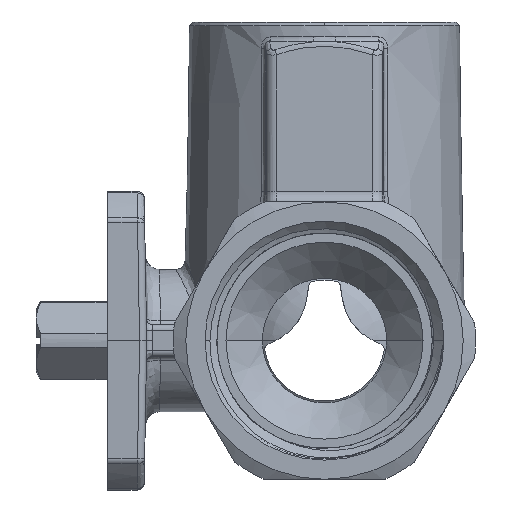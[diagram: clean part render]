
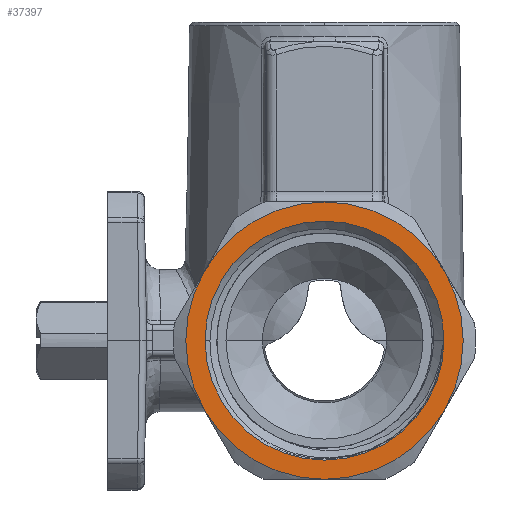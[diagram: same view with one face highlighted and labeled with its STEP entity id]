
A CAD part, left-side view. The second image highlights one B-rep face of the part: STEP entity #37397.
In plain terms, the highlighted planar face has unit normal (-1, 0, 0).
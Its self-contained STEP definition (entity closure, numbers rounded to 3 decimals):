
#8435=CARTESIAN_POINT('',(-42.7,0.,0.));
#8436=DIRECTION('',(1.,0.,0.));
#8437=DIRECTION('',(0.,1.,0.));
#8438=AXIS2_PLACEMENT_3D('',#8435,#8436,#8437);
#8440=CARTESIAN_POINT('',(-42.7,0.,0.));
#8441=DIRECTION('',(-1.,0.,0.));
#8442=DIRECTION('',(0.,1.,0.));
#8443=AXIS2_PLACEMENT_3D('',#8440,#8441,#8442);
#8445=CARTESIAN_POINT('',(-42.7,0.,0.));
#8446=DIRECTION('',(-1.,0.,0.));
#8447=DIRECTION('',(0.,0.866,0.5));
#8448=AXIS2_PLACEMENT_3D('',#8445,#8446,#8447);
#8477=CARTESIAN_POINT('',(-42.7,16.887,
-9.75));
#8507=CARTESIAN_POINT('',(-42.7,0.,0.));
#8508=DIRECTION('',(-1.,0.,0.));
#8509=DIRECTION('',(0.,0.866,-0.5));
#8510=AXIS2_PLACEMENT_3D('',#8507,#8508,#8509);
#8520=CARTESIAN_POINT('',(-42.7,0.,
-19.5));
#9622=CARTESIAN_POINT('',(-42.7,0.,0.));
#9623=DIRECTION('',(-1.,0.,0.));
#9624=DIRECTION('',(0.,0.,-1.));
#9625=AXIS2_PLACEMENT_3D('',#9622,#9623,#9624);
#9635=CARTESIAN_POINT('',(-42.7,-16.887,
-9.75));
#9658=CARTESIAN_POINT('',(-42.7,0.,0.));
#9659=DIRECTION('',(-1.,0.,0.));
#9660=DIRECTION('',(0.,-0.866,-0.5));
#9661=AXIS2_PLACEMENT_3D('',#9658,#9659,#9660);
#9686=CARTESIAN_POINT('',(-42.7,-16.887,
9.75));
#9716=CARTESIAN_POINT('',(-42.7,0.,0.));
#9717=DIRECTION('',(1.,0.,0.));
#9718=DIRECTION('',(0.,0.,1.));
#9719=AXIS2_PLACEMENT_3D('',#9716,#9717,#9718);
#9729=CARTESIAN_POINT('',(-42.7,0.,
19.5));
#9821=CARTESIAN_POINT('',(-42.7,0.,0.));
#9822=DIRECTION('',(1.,0.,0.));
#9823=DIRECTION('',(0.,0.866,0.5));
#9824=AXIS2_PLACEMENT_3D('',#9821,#9822,#9823);
#9834=CARTESIAN_POINT('',(-42.7,16.887,9.75));
#24099=CARTESIAN_POINT('',(-42.7,16.8,0.));
#24100=CARTESIAN_POINT('',(-42.7,-16.8,0.));
#24101=VERTEX_POINT('',#24099);
#24102=VERTEX_POINT('',#24100);
#24104=VERTEX_POINT('',#9834);
#24111=VERTEX_POINT('',#9729);
#24118=VERTEX_POINT('',#9686);
#24121=VERTEX_POINT('',#9635);
#24128=VERTEX_POINT('',#8520);
#24135=VERTEX_POINT('',#8477);
#37374=CARTESIAN_POINT('',(-42.7,0.,0.));
#37375=DIRECTION('',(1.,0.,0.));
#37376=DIRECTION('',(0.,-1.,0.));
#37377=AXIS2_PLACEMENT_3D('',#37374,#37375,#37376);
#37378=PLANE('',#37377);
#37380=ORIENTED_EDGE('',*,*,#37379,.F.);
#37382=ORIENTED_EDGE('',*,*,#37381,.T.);
#37384=ORIENTED_EDGE('',*,*,#37383,.T.);
#37386=ORIENTED_EDGE('',*,*,#37385,.F.);
#37388=ORIENTED_EDGE('',*,*,#37387,.F.);
#37390=ORIENTED_EDGE('',*,*,#37389,.F.);
#37391=EDGE_LOOP('',(#37380,#37382,#37384,#37386,#37388,#37390));
#37392=FACE_OUTER_BOUND('',#37391,.F.);
#37393=ORIENTED_EDGE('',*,*,#37368,.F.);
#37394=ORIENTED_EDGE('',*,*,#36384,.T.);
#37395=EDGE_LOOP('',(#37393,#37394));
#37396=FACE_BOUND('',#37395,.F.);
#8439=CIRCLE('',#8438,16.8);
#8444=CIRCLE('',#8443,16.8);
#8449=CIRCLE('',#8448,19.5);
#8511=CIRCLE('',#8510,19.5);
#9626=CIRCLE('',#9625,19.5);
#9662=CIRCLE('',#9661,19.5);
#9720=CIRCLE('',#9719,19.5);
#9825=CIRCLE('',#9824,19.5);
#36384=EDGE_CURVE('',#24101,#24102,#8444,.T.);
#37368=EDGE_CURVE('',#24101,#24102,#8439,.T.);
#37379=EDGE_CURVE('',#24104,#24135,#8449,.T.);
#37381=EDGE_CURVE('',#24104,#24111,#9825,.T.);
#37383=EDGE_CURVE('',#24111,#24118,#9720,.T.);
#37385=EDGE_CURVE('',#24121,#24118,#9662,.T.);
#37387=EDGE_CURVE('',#24128,#24121,#9626,.T.);
#37389=EDGE_CURVE('',#24135,#24128,#8511,.T.);
#37397=ADVANCED_FACE('',(#37392,#37396),#37378,.F.);
